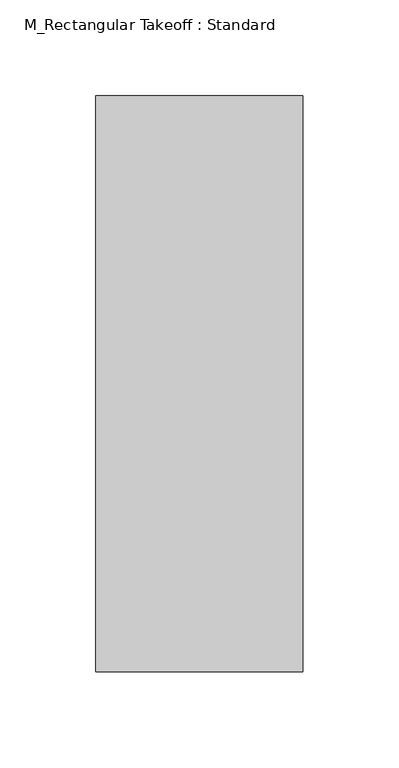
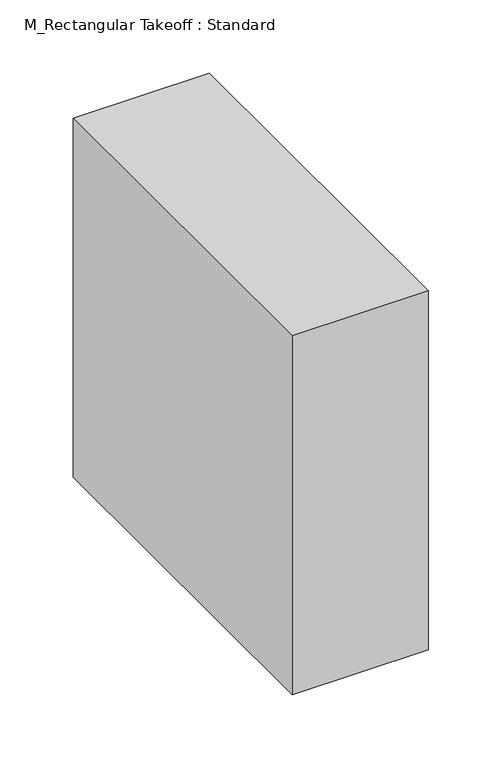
"""IFC4 building model written with IfcOpenShell, lengths in millimetres: duct fitting geometry, M_Rectangular Takeoff : Standard."""

from ifc_helpers import new_model, si_unit, frame, origin, place, context, project, spatial, polyline, outline, extrude, source, transform, mapped, element, save


def m_rectangular_takeoff_standard_cb0ccb98(model_context):
    return source(origin(), model_context, "Body", "SweptSolid", [
        extrude(outline(polyline([(-6.096, -150.0), (-6.096, 150.0), (101.6, 150.0), (101.6, -150.0), (-6.096, -150.0)])), frame((0.0, 0.0, -150.0), z_axis=(0.0, 0.0, 1.0), x_axis=(1.0, 0.0, 0.0)), (0.0, 0.0, 1.0), 300.0),
    ])


if __name__ == "__main__":
    model = new_model("IFC4")
    model_context = context("Model", 3, world=origin())
    ifc_project = project(units=[si_unit("LENGTHUNIT", "METRE", prefix="MILLI")], contexts=[model_context])
    site = spatial("IfcSite", under=ifc_project)
    building = spatial("IfcBuilding", under=site)
    placement = place(None, origin())
    m_rectangular_takeoff_standard_shape = m_rectangular_takeoff_standard_cb0ccb98(model_context)
    element("IfcDuctFitting", 1, ObjectType="M_Rectangular Takeoff : Standard", at=placement, inside=building, context=model_context, shape_type="MappedRepresentation", body=[
        mapped(m_rectangular_takeoff_standard_shape, transform((0.0, 0.0, 0.0), x_axis=(1.0, 0.0, 0.0), y_axis=(0.0, 1.0, 0.0), z_axis=(0.0, 0.0, 1.0))),
    ])
    save(model, "model.ifc")
